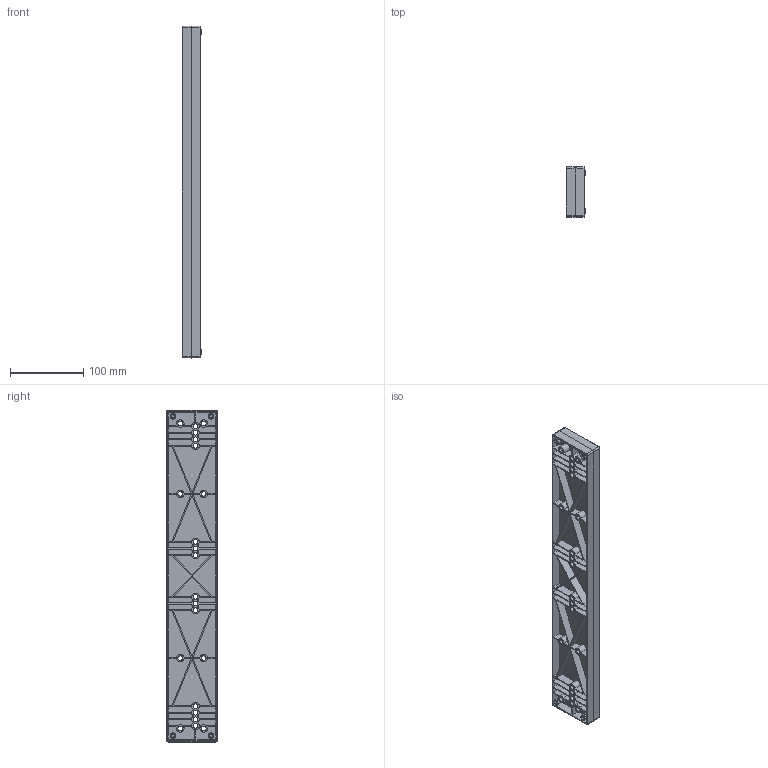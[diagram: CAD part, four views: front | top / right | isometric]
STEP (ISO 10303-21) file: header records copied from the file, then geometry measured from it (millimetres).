
FILE_DESCRIPTION((''),'2;1');
FILE_NAME('183617','2022-12-01T10:17:29',('1ke04'),('Kesseboehmer'),'CREO PARAMETRIC BY PTC INC, 2020414','CREO PARAMETRIC BY PTC INC, 2020414','');
FILE_SCHEMA(('AUTOMOTIVE_DESIGN { 1 0 10303 214 1 1 1 1 }'));
Length unit declared in the file: millimetre
Products named in the file (1): 183617
Bounding box: 27 x 68.87 x 452.87 mm (x, y, z)
Volume: 195770 mm3; surface area: 204799.8 mm2
Topology: 1 solids, 1 shells, 688 faces, 1772 edges, 1192 vertices
Faces by surface type: plane 440, cylinder 232, cone 8, extrusion 8
Entity records: 22383 total; most frequent: CARTESIAN_POINT 3939, DIRECTION 3675, ORIENTED_EDGE 3544, EDGE_CURVE 1772, VECTOR 1322, LINE 1314, VERTEX_POINT 1192, AXIS2_PLACEMENT_3D 1175
